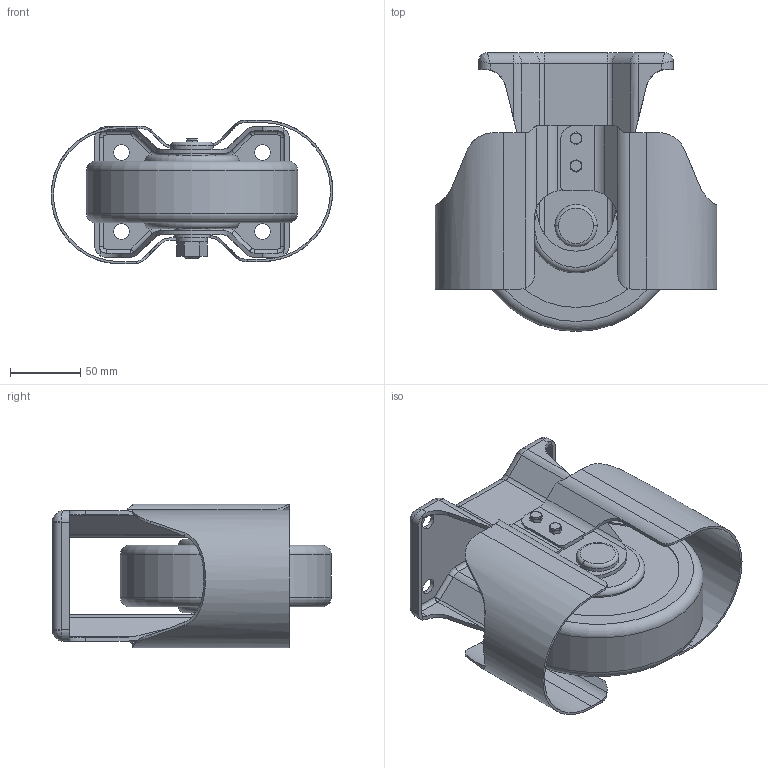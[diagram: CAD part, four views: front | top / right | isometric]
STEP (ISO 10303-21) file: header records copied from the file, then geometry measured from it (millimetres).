
FILE_DESCRIPTION (( 'STEP AP214' ), '1' );
FILE_NAME ('NSFUKAZ150rev0.STEP', '2017-11-29T04:47:55', ( '' ), ( '' ), 'SwSTEP 2.0', 'SolidWorks 2013', '' );
FILE_SCHEMA (( 'AUTOMOTIVE_DESIGN' ));
Length unit declared in the file: millimetre
Products named in the file (4): NSFUKAZ150rve1; NSFUKAZ150rev0; NSFUKAZ150rve3; NSFUKAZ150rve2
Assembly tree (3 placements, depth 2):
  NSFUKAZ150rev0
    NSFUKAZ150rve1
    NSFUKAZ150rve3
    NSFUKAZ150rve2
Bounding box: 200 x 198 x 102 mm (x, y, z)
Volume: 964269.7 mm3; surface area: 216539.7 mm2
Topology: 3 solids, 3 shells, 326 faces, 840 edges, 530 vertices
Faces by surface type: plane 144, cylinder 142, torus 32, bspline 4, cone 2, sphere 2
Entity records: 11172 total; most frequent: CARTESIAN_POINT 3153, ORIENTED_EDGE 1668, DIRECTION 1657, EDGE_CURVE 834, AXIS2_PLACEMENT_3D 614, VERTEX_POINT 530, LINE 429, VECTOR 429
